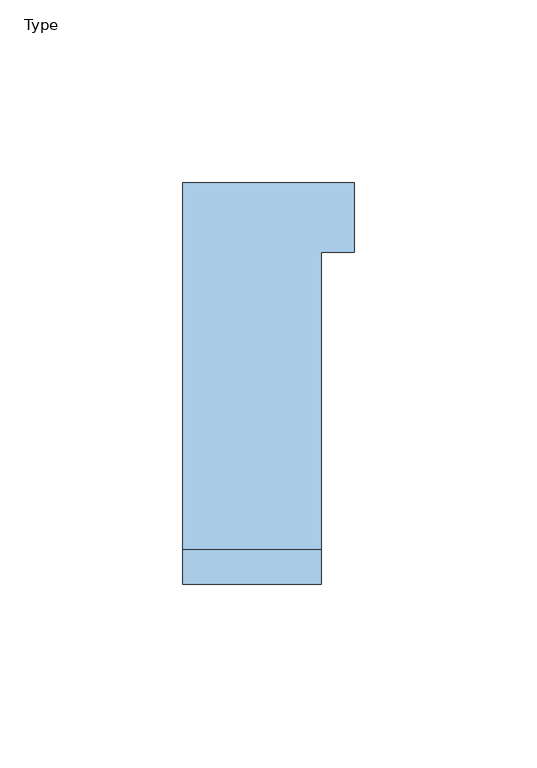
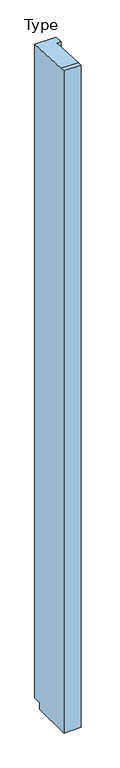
"""IFC4 building model written with IfcOpenShell, lengths in millimetres: window geometry, NLRS_30_MC_spouwlat_zijstijll_47x110 : Type."""

from ifc_helpers import new_model, si_unit, origin, place, context, project, spatial, faceted_brep, source, transform, mapped, element, save


def type_0742a6f5(model_context):
    return source(origin(), model_context, "Body", "Brep", [
        faceted_brep([(-38.0, -110.0, 0.0), (-38.0, -19.0, 0.0), (0.0, -19.0, 0.0), (0.0, -110.0, 0.0), (0.0, -110.0, 1527.4), (-38.0, -110.0, 1527.4), (0.0, -19.0, 15.0), (0.0, -19.0, 1523.1308921), (0.0, -100.4594317, 1527.4), (9.0, -19.0, 15.0), (9.0, -19.0, 1523.1308921), (9.0, 0.0, 15.0), (9.0, 0.0, 1522.1351443), (-38.0, 0.0, 15.0), (-38.0, 0.0, 1522.1351443), (-38.0, -100.4594317, 1527.4), (-38.0, -19.0, 15.0)], [[[0, 1, 2, 3]], [[3, 4, 5, 0]], [[2, 6, 7, 8, 4, 3]], [[9, 10, 7, 6]], [[11, 12, 10, 9]], [[13, 14, 12, 11]], [[5, 15, 14, 13, 16, 1, 0]], [[4, 8, 15, 5]], [[6, 2, 1, 16]], [[16, 13, 11, 9, 6]], [[8, 7, 10, 12, 14, 15]]]),
    ])


if __name__ == "__main__":
    model = new_model("IFC4")
    model_context = context("Model", 3, world=origin())
    ifc_project = project(units=[si_unit("LENGTHUNIT", "METRE", prefix="MILLI")], contexts=[model_context])
    site = spatial("IfcSite", under=ifc_project)
    building = spatial("IfcBuilding", under=site)
    placement = place(None, origin())
    ifc_type_shape = type_0742a6f5(model_context)
    element("IfcWindow", 1, ObjectType="NLRS_30_MC_spouwlat_zijstijll_47x110 : Type", at=placement, inside=building, context=model_context, shape_type="MappedRepresentation", body=[
        mapped(ifc_type_shape, transform((0.0, 0.0, 0.0), x_axis=(1.0, 0.0, 0.0), y_axis=(0.0, 1.0, 0.0), z_axis=(0.0, 0.0, 1.0))),
    ])
    save(model, "model.ifc")
